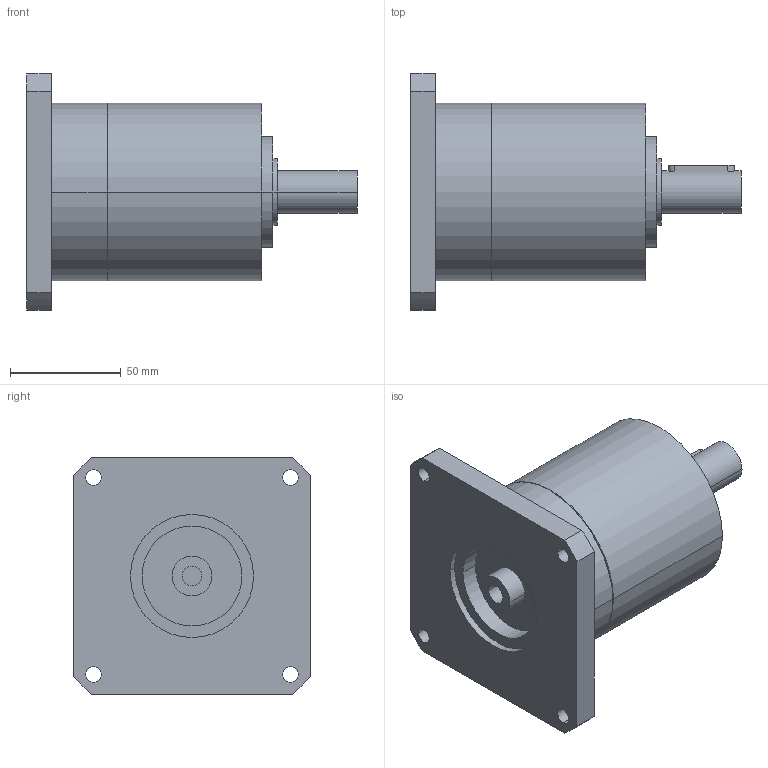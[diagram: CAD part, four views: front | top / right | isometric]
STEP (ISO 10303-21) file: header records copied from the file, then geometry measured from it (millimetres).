
FILE_DESCRIPTION(('CoCreate Modeling STEP Export'),'2;1');
FILE_NAME('GPR100_ig-3-4-5-6_19_B14_9_P02.stp','2014-08-26T10:53:27',(''),(''),'CoCreate Modeling STEP processor for AP214 (Solid Model)','CoCreate Modeling 16.00C 25-Feb-2009 (C) Parametric Technology GmbH','');
FILE_SCHEMA(('AUTOMOTIVE_DESIGN { 1 0 10303 214 1 1 1 1 }'));
Length unit declared in the file: millimetre
Products named in the file (2): GPR100_ig-3-4-5-6_19_B14_9_P02
Assembly tree (1 placements, depth 2):
  GPR100_ig-3-4-5-6_19_B14_9_P02
    GPR100_ig-3-4-5-6_19_B14_9_P02
Bounding box: 149 x 106.5 x 106.5 mm (x, y, z)
Volume: 599547.6 mm3; surface area: 59567.5 mm2
Topology: 1 solids, 1 shells, 70 faces, 189 edges, 133 vertices
Faces by surface type: cylinder 42, plane 22, cone 6
Entity records: 1944 total; most frequent: ORIENTED_EDGE 374, CARTESIAN_POINT 361, DIRECTION 262, EDGE_CURVE 187, VERTEX_POINT 133, AXIS2_PLACEMENT_3D 98, EDGE_LOOP 92, FACE_OUTER_BOUND 70
